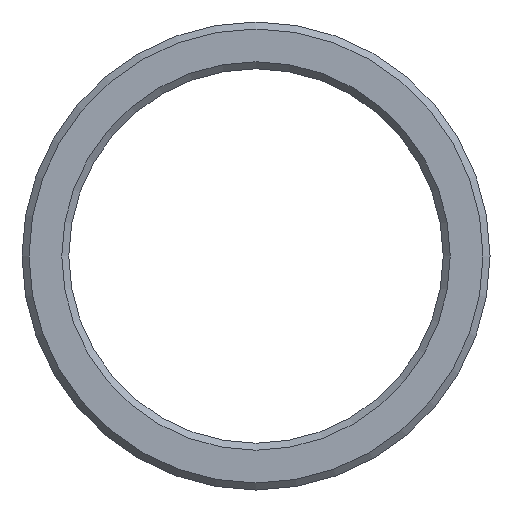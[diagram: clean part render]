
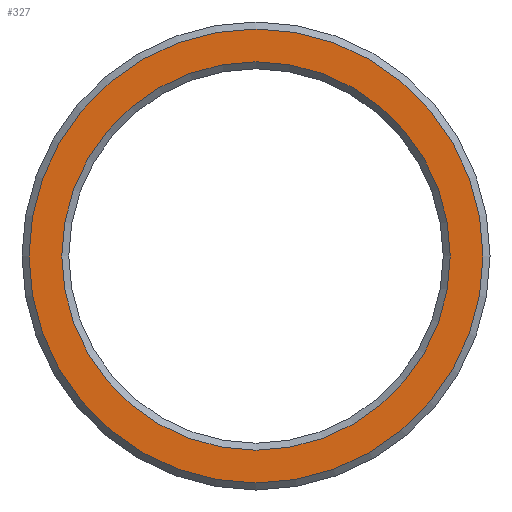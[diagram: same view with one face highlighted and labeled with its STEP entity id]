
A CAD part, front view. The second image highlights one B-rep face of the part: STEP entity #327.
In plain terms, the highlighted planar face has unit normal (0, -1, 0).
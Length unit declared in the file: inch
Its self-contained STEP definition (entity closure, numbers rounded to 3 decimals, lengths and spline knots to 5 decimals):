
#15=FACE_BOUND('',#59,.T.);
#17=PLANE('',#392);
#38=FACE_OUTER_BOUND('',#58,.T.);
#58=EDGE_LOOP('',(#275));
#59=EDGE_LOOP('',(#276));
#124=CIRCLE('',#390,0.32677);
#126=CIRCLE('',#393,0.38189);
#153=VERTEX_POINT('',#591);
#155=VERTEX_POINT('',#597);
#194=EDGE_CURVE('',#153,#153,#124,.T.);
#197=EDGE_CURVE('',#155,#155,#126,.T.);
#275=ORIENTED_EDGE('',*,*,#197,.F.);
#276=ORIENTED_EDGE('',*,*,#194,.F.);
#327=ADVANCED_FACE('',(#38,#15),#17,.F.);
#390=AXIS2_PLACEMENT_3D('',#592,#487,#488);
#392=AXIS2_PLACEMENT_3D('',#596,#492,#493);
#393=AXIS2_PLACEMENT_3D('',#598,#494,#495);
#487=DIRECTION('center_axis',(0.,-1.,0.));
#488=DIRECTION('ref_axis',(-1.,0.,0.));
#492=DIRECTION('center_axis',(0.,1.,0.));
#493=DIRECTION('ref_axis',(0.,0.,1.));
#494=DIRECTION('center_axis',(0.,1.,0.));
#495=DIRECTION('ref_axis',(1.,0.,0.));
#591=CARTESIAN_POINT('',(0.32677,-0.98425,0.));
#592=CARTESIAN_POINT('Origin',(0.,-0.98425,0.));
#596=CARTESIAN_POINT('Origin',(0.,-0.98425,
0.));
#597=CARTESIAN_POINT('',(-0.38189,-0.98425,0.));
#598=CARTESIAN_POINT('Origin',(0.,-0.98425,0.));
